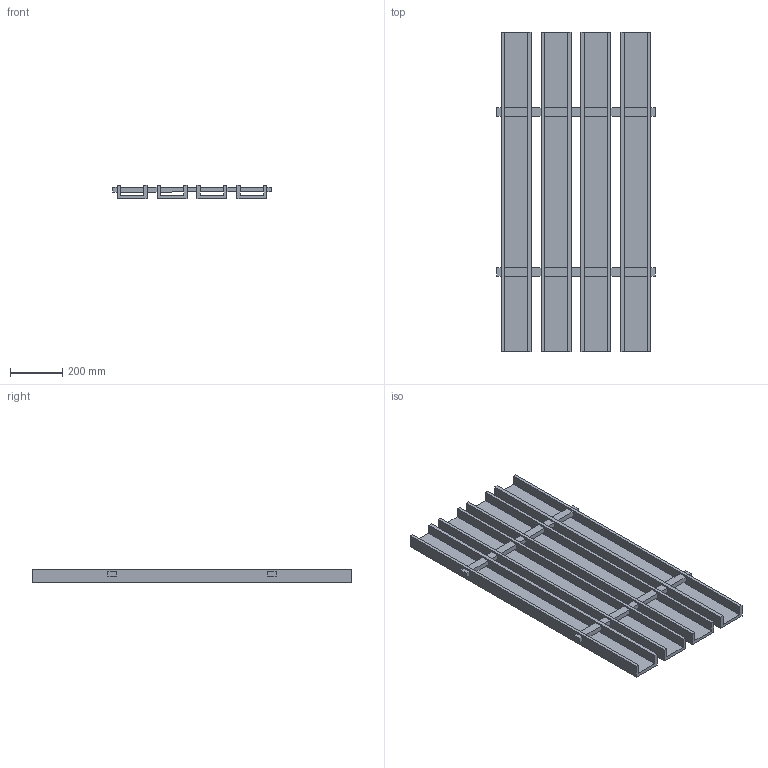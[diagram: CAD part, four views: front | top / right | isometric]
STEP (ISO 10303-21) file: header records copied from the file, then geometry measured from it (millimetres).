
FILE_DESCRIPTION(/* description */ (''),/* implementation_level */ '2;1');
FILE_NAME(/* name */ 'PET GRILLA_4.5x2_4ft',/* time_stamp */ '2024-10-15T14:22:01-05:00',/* author */ (''),/* organization */ (''),/* preprocessor_version */ 'ST-DEVELOPER v19.2',/* originating_system */ 'Rhino 8.4',/* authorisation */ '');
FILE_SCHEMA (('CONFIG_CONTROL_DESIGN'));
Length unit declared in the file: inch
Products named in the file (1): Document
Bounding box: 603.25 x 1219.2 x 50.8 mm (x, y, z)
Volume: 12405519.5 mm3; surface area: 2086286.1 mm2
Topology: 1 solids, 1 shells, 116 faces, 312 edges, 208 vertices
Faces by surface type: plane 116
Entity records: 3260 total; most frequent: CARTESIAN_POINT 950, ORIENTED_EDGE 624, EDGE_CURVE 312, B_SPLINE_CURVE_WITH_KNOTS 312, VERTEX_POINT 208, EDGE_LOOP 148, DIRECTION 120, AXIS2_PLACEMENT_3D 118
